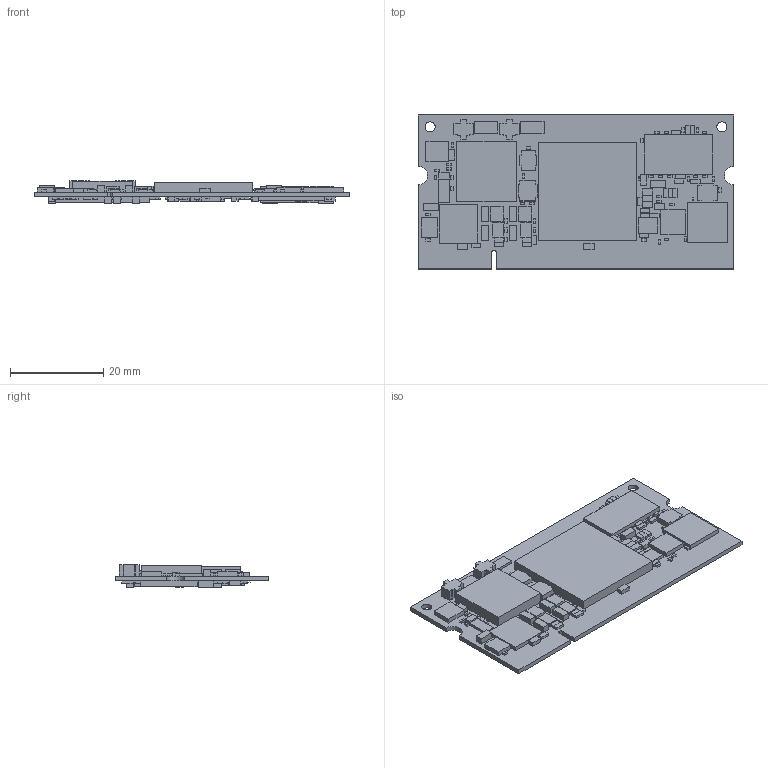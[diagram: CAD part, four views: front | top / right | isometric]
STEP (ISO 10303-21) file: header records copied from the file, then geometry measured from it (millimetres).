
FILE_DESCRIPTION (( 'STEP AP203' ), '1' );
FILE_NAME ('VAR_SOM_SOLO_V1-02_FINAL.STEP', '2017-03-23T16:02:35', ( 'LAB' ), ( '' ), 'SwSTEP 2.0', 'SolidWorks 2013', '' );
FILE_SCHEMA (( 'CONFIG_CONTROL_DESIGN' ));
Length unit declared in the file: metre
Products named in the file (1): VAR_SOM_SOLO_V1-02_FINAL
Bounding box: 67.6 x 32.99 x 4.9 mm (x, y, z)
Volume: 4951.9 mm3; surface area: 10101.1 mm2
Topology: 259 solids, 259 shells, 2304 faces, 5358 edges, 3572 vertices
Faces by surface type: plane 2287, cylinder 17
Entity records: 63725 total; most frequent: CARTESIAN_POINT 11235, ORIENTED_EDGE 10716, DIRECTION 10002, EDGE_CURVE 5358, LINE 5324, VECTOR 5324, VERTEX_POINT 3572, AXIS2_PLACEMENT_3D 2339
